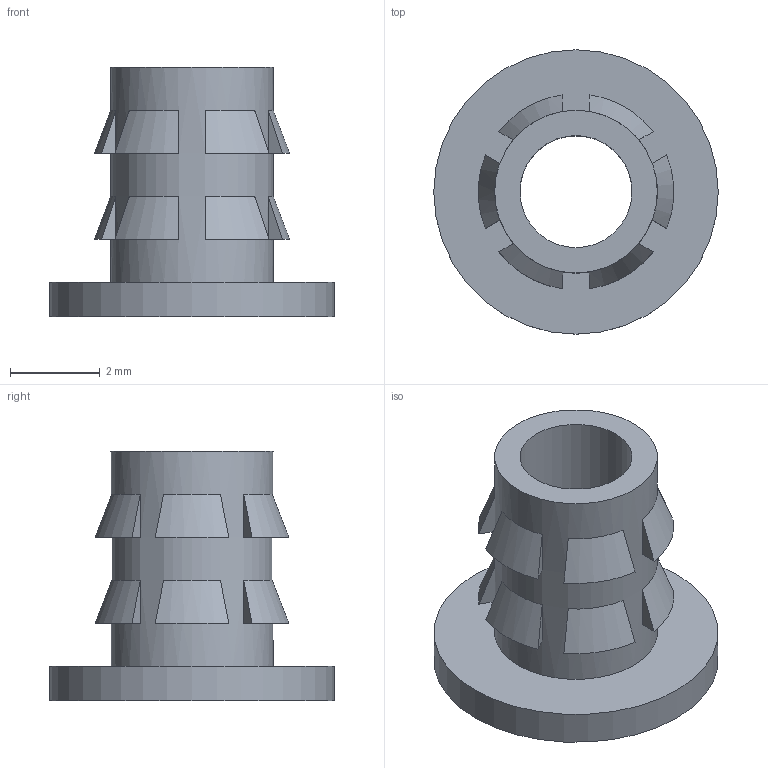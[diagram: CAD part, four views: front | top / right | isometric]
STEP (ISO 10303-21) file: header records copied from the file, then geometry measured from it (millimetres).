
FILE_DESCRIPTION (( 'STEP AP214' ), '1' );
FILE_NAME ('Flanged insert M3.STEP', '2017-08-09T04:30:21', ( '微软用户' ), ( '微软中国' ), 'SwSTEP 2.0', 'SolidWorks 2015', '' );
FILE_SCHEMA (( 'AUTOMOTIVE_DESIGN' ));
Length unit declared in the file: millimetre
Products named in the file (1): Flanged insert M3
Bounding box: 6.35 x 6.35 x 5.56 mm (x, y, z)
Volume: 48.7 mm3; surface area: 180.1 mm2
Topology: 1 solids, 1 shells, 55 faces, 125 edges, 83 vertices
Faces by surface type: plane 39, torus 12, cylinder 3, cone 1
Full cylindrical faces by diameter (mm): 2.5 x1, 3.632 x1, 6.35 x1
Entity records: 1566 total; most frequent: CARTESIAN_POINT 338, DIRECTION 246, ORIENTED_EDGE 230, EDGE_CURVE 115, AXIS2_PLACEMENT_3D 99, VERTEX_POINT 79, EDGE_LOOP 74, FACE_OUTER_BOUND 58
